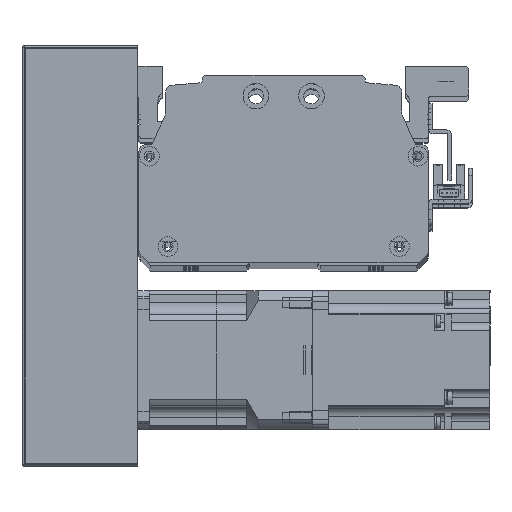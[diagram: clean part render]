
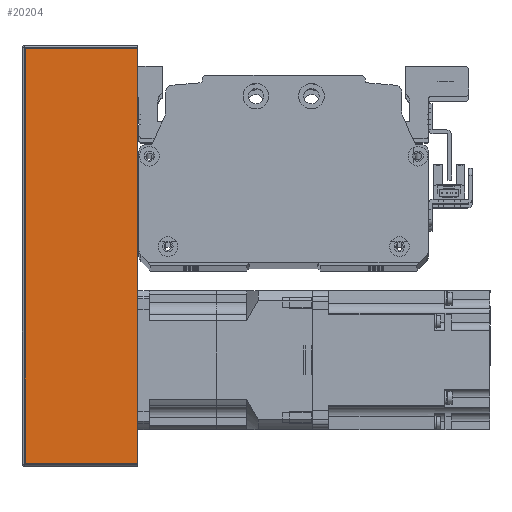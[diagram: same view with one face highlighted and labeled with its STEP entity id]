
A CAD part, top view. The second image highlights one B-rep face of the part: STEP entity #20204.
In plain terms, the highlighted planar face has unit normal (0, 0, 1) as drawn and (0, 1, 0) by its records, which use the part's own axes.
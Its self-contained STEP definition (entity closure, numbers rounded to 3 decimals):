
#609=PLANE('',#22236);
#1812=LINE('',#33329,#3436);
#1829=LINE('',#33383,#3453);
#1834=LINE('',#33407,#3458);
#1853=LINE('',#33470,#3477);
#3436=VECTOR('',#26967,10.);
#3453=VECTOR('',#27020,10.);
#3458=VECTOR('',#27057,10.);
#3477=VECTOR('',#27140,10.);
#5914=FACE_OUTER_BOUND('',#7422,.T.);
#7422=EDGE_LOOP('',(#17453,#17454,#17455,#17456));
#10327=VERTEX_POINT('',#33326);
#10328=VERTEX_POINT('',#33328);
#10346=VERTEX_POINT('',#33380);
#10347=VERTEX_POINT('',#33382);
#12798=EDGE_CURVE('',#10327,#10328,#1812,.T.);
#12826=EDGE_CURVE('',#10346,#10347,#1829,.T.);
#12840=EDGE_CURVE('',#10328,#10346,#1834,.T.);
#12871=EDGE_CURVE('',#10347,#10327,#1853,.T.);
#17453=ORIENTED_EDGE('',*,*,#12826,.F.);
#17454=ORIENTED_EDGE('',*,*,#12840,.F.);
#17455=ORIENTED_EDGE('',*,*,#12798,.F.);
#17456=ORIENTED_EDGE('',*,*,#12871,.F.);
#20204=ADVANCED_FACE('',(#5914),#609,.T.);
#22236=AXIS2_PLACEMENT_3D('',#33469,#27138,#27139);
#26967=DIRECTION('',(-1.,0.,0.));
#27020=DIRECTION('',(1.,0.,0.));
#27057=DIRECTION('',(0.,0.,-1.));
#27138=DIRECTION('center_axis',(0.,1.,0.));
#27139=DIRECTION('ref_axis',(-1.,0.,0.));
#27140=DIRECTION('',(0.,0.,1.));
#33326=CARTESIAN_POINT('',(90.,38.,25.));
#33328=CARTESIAN_POINT('',(-90.,38.,25.));
#33329=CARTESIAN_POINT('',(-91.,38.,25.));
#33380=CARTESIAN_POINT('',(-90.,38.,-24.));
#33382=CARTESIAN_POINT('',(90.,38.,-24.));
#33383=CARTESIAN_POINT('',(45.5,38.,-24.));
#33407=CARTESIAN_POINT('',(-90.,38.,0.));
#33469=CARTESIAN_POINT('Origin',(91.,38.,0.));
#33470=CARTESIAN_POINT('',(90.,38.,0.));
